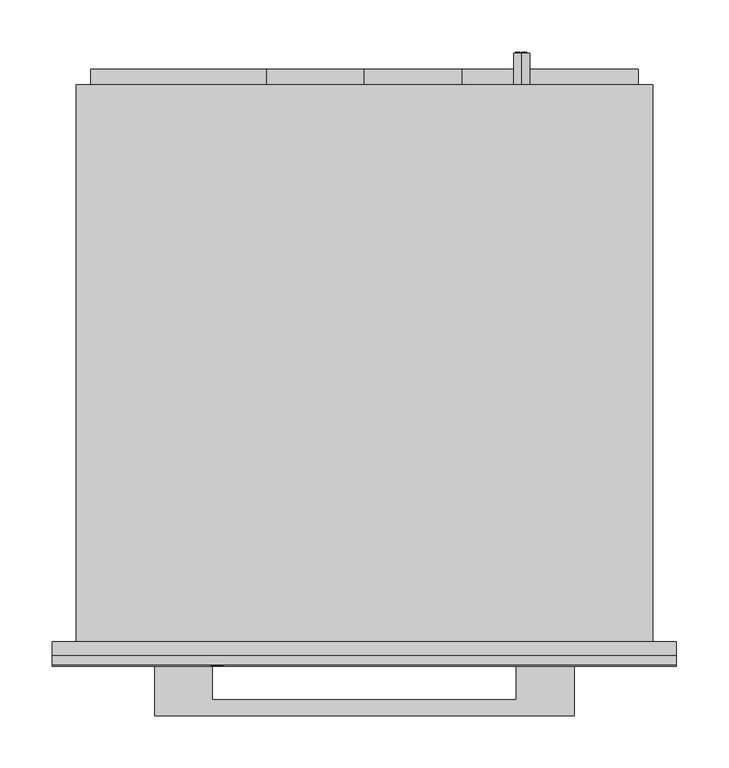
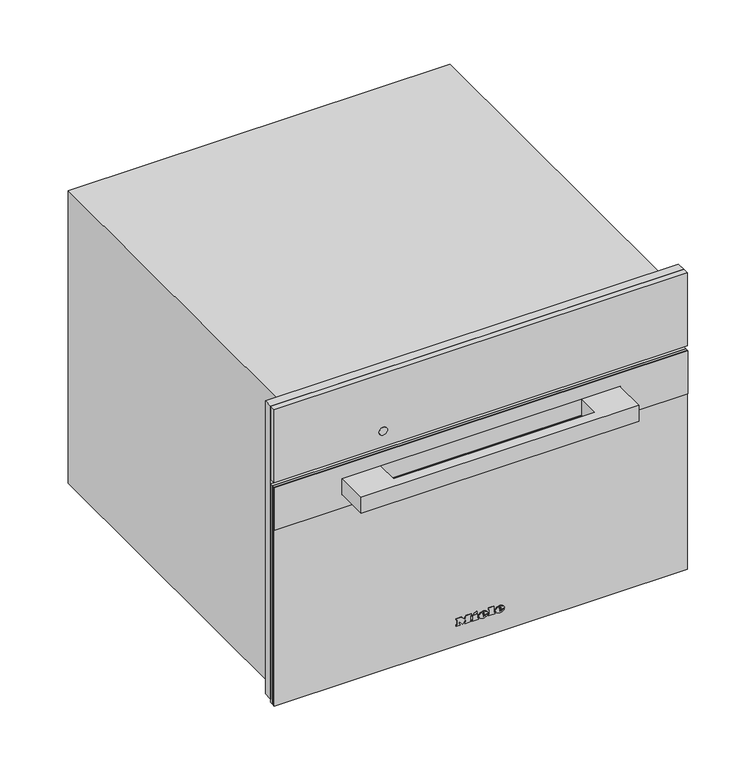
"""IFC4 building model written with IfcOpenShell, lengths in millimetres: proxy geometry, 11146160_IB_DG2840_EDST-CLST : 23284040_IB_11146160_DG2840_EDST-CLST."""

from ifc_helpers import new_model, si_unit, point, frame, frame_2d, origin, place, context, project, spatial, polyline, circle_curve, ellipse_curve, trimmed, segment, composite_curve, outline, extrude, faceted_brep, source, transform, mapped, element, save
from ifc_brep_helpers import plane_surface, cylinder_surface, revolved_surface, extruded_surface, advanced_brep


def specialty_equipment_0b99233d(model_context):
    return source(origin(), model_context, "Body", "SolidModel", [
        extrude(outline(polyline([(455.0, 297.5), (455.0, -297.5), (9.0, -297.5), (9.0, -272.5), (344.0, -272.5), (344.0, 272.5), (9.0, 272.5), (9.0, 297.5), (455.0, 297.5)])), frame((0.0, -13.0, 0.0), z_axis=(0.0, 1.0, 0.0), x_axis=(0.0, 0.0, 1.0)), (0.0, 0.0, 1.0), 13.0),
        advanced_brep(
        [(150.0, 561.0, 410.5), (150.0, 561.0, 395.5), (144.4098301, 561.0, 398.0), (148.5, 561.0, 398.0), (148.5, 561.0, 408.0), (147.4955303, 561.0, 408.0), (147.4955303, 561.0, 399.0), (144.0315043, 561.0, 399.0), (144.0315043, 561.0, 398.4582978), (155.0, 561.0, 398.0), (155.0, 561.0, 408.0), (150.0, 561.0, 408.0), (150.0, 561.0, 407.0), (154.0, 561.0, 407.0), (154.0, 561.0, 403.5), (151.0, 561.0, 403.5), (151.0, 561.0, 402.5), (154.0, 561.0, 402.5), (154.0, 561.0, 399.0), (150.0, 561.0, 399.0), (150.0, 561.0, 398.0), (150.0, 531.0, 395.5), (150.0, 531.0, 410.5), (155.0, 562.0, 408.0), (155.0, 562.0, 398.0), (150.0, 562.0, 398.0), (150.0, 562.0, 399.0), (154.0, 562.0, 399.0), (154.0, 562.0, 402.5), (151.0, 562.0, 402.5), (151.0, 562.0, 403.5), (154.0, 562.0, 403.5), (154.0, 562.0, 407.0), (150.0, 562.0, 407.0), (150.0, 562.0, 408.0), (148.5, 562.0, 398.0), (144.0315043, 562.0, 398.0), (144.0315043, 562.0, 399.0), (147.4955303, 562.0, 399.0), (147.4955303, 562.0, 408.0), (148.5, 562.0, 408.0), (144.0315043, 561.0, 398.0)],
        [
            (0, 1, circle_curve(frame((150.0, 561.0, 403.0), z_axis=(0.0, 1.0, 0.0), x_axis=(0.0, 0.0, 1.0)), 7.5)),
            (1, 2, circle_curve(frame((150.0, 561.0, 403.0), z_axis=(0.0, 1.0, 0.0), x_axis=(0.0, 0.0, 1.0)), 7.5)),
            (2, 3),
            (3, 4),
            (4, 5),
            (5, 6),
            (6, 7),
            (7, 8),
            (8, 0, circle_curve(frame((150.0, 561.0, 403.0), z_axis=(0.0, 1.0, 0.0), x_axis=(0.0, 0.0, 1.0)), 7.5)),
            (9, 10),
            (10, 11),
            (11, 12),
            (12, 13),
            (13, 14),
            (14, 15),
            (15, 16),
            (16, 17),
            (17, 18),
            (18, 19),
            (19, 20),
            (20, 9),
            (21, 22, circle_curve(frame((150.0, 531.0, 403.0), z_axis=(0.0, -1.0, 0.0), x_axis=(0.0, 0.0, 1.0)), 7.5)),
            (22, 21, circle_curve(frame((150.0, 531.0, 403.0), z_axis=(0.0, -1.0, 0.0), x_axis=(0.0, 0.0, 1.0)), 7.5)),
            (0, 22),
            (21, 1),
            (8, 2, circle_curve(frame((150.0, 561.0, 403.0), z_axis=(0.0, -1.0, 0.0), x_axis=(0.0, 0.0, 1.0)), 7.5)),
            (23, 24),
            (24, 25),
            (25, 26),
            (26, 27),
            (27, 28),
            (28, 29),
            (29, 30),
            (30, 31),
            (31, 32),
            (32, 33),
            (33, 34),
            (34, 23),
            (35, 36),
            (36, 37),
            (37, 38),
            (38, 39),
            (39, 40),
            (40, 35),
            (8, 41),
            (41, 2),
            (23, 10),
            (9, 24),
            (20, 25),
            (19, 26),
            (18, 27),
            (17, 28),
            (16, 29),
            (15, 30),
            (14, 31),
            (13, 32),
            (12, 33),
            (11, 34),
            (35, 3),
            (41, 36),
            (7, 37),
            (6, 38),
            (5, 39),
            (4, 40),
        ],
        [
            plane_surface(frame((150.0, 561.0, 410.5), z_axis=(0.0, 1.0, 0.0), x_axis=(1.0, 0.0, 0.0))),
            plane_surface(frame((150.0, 531.0, 410.5), z_axis=(0.0, -1.0, 0.0), x_axis=(-1.0, 0.0, 0.0))),
            cylinder_surface(frame((150.0, 561.0, 403.0), z_axis=(0.0, -1.0, 0.0), x_axis=(0.0, 0.0, 1.0)), 7.5),
            plane_surface(frame((155.0, 562.0, 408.0), z_axis=(0.0, 1.0, 0.0), x_axis=(0.0, 0.0, -1.0))),
            plane_surface(frame((155.0, 561.0, 408.0), z_axis=(0.0, -1.0, 0.0), x_axis=(0.0, 0.0, 1.0))),
            plane_surface(frame((155.0, 562.0, 408.0), z_axis=(1.0, 0.0, 0.0), x_axis=(0.0, -1.0, 0.0))),
            plane_surface(frame((155.0, 562.0, 398.0), z_axis=(0.0, 0.0, -1.0), x_axis=(0.0, -1.0, 0.0))),
            plane_surface(frame((150.0, 562.0, 398.0), z_axis=(-1.0, 0.0, 0.0), x_axis=(0.0, -1.0, 0.0))),
            plane_surface(frame((150.0, 562.0, 399.0), z_axis=(0.0, 0.0, 1.0), x_axis=(0.0, -1.0, 0.0))),
            plane_surface(frame((154.0, 562.0, 399.0), z_axis=(-1.0, 0.0, 0.0), x_axis=(0.0, -1.0, 0.0))),
            plane_surface(frame((154.0, 562.0, 402.5), z_axis=(0.0, 0.0, -1.0), x_axis=(0.0, -1.0, 0.0))),
            plane_surface(frame((151.0, 562.0, 402.5), z_axis=(-1.0, 0.0, 0.0), x_axis=(0.0, -1.0, 0.0))),
            plane_surface(frame((151.0, 562.0, 403.5), z_axis=(0.0, 0.0, 1.0), x_axis=(0.0, -1.0, 0.0))),
            plane_surface(frame((154.0, 562.0, 403.5), z_axis=(-1.0, 0.0, 0.0), x_axis=(0.0, -1.0, 0.0))),
            plane_surface(frame((154.0, 562.0, 407.0), z_axis=(0.0, 0.0, -1.0), x_axis=(0.0, -1.0, 0.0))),
            plane_surface(frame((150.0, 562.0, 407.0), z_axis=(-1.0, 0.0, 0.0), x_axis=(0.0, -1.0, 0.0))),
            plane_surface(frame((150.0, 562.0, 408.0), z_axis=(0.0, 0.0, 1.0), x_axis=(0.0, -1.0, 0.0))),
            plane_surface(frame((148.5, 562.0, 398.0), z_axis=(0.0, 0.0, -1.0), x_axis=(0.0, -1.0, 0.0))),
            plane_surface(frame((144.0315043, 562.0, 398.0), z_axis=(-1.0, 0.0, 0.0), x_axis=(0.0, -1.0, 0.0))),
            plane_surface(frame((144.0315043, 562.0, 399.0), z_axis=(0.0, 0.0, 1.0), x_axis=(0.0, -1.0, 0.0))),
            plane_surface(frame((147.4955303, 562.0, 399.0), z_axis=(-1.0, 0.0, 0.0), x_axis=(0.0, -1.0, 0.0))),
            plane_surface(frame((147.4955303, 562.0, 408.0), z_axis=(0.0, 0.0, 1.0), x_axis=(0.0, -1.0, 0.0))),
            plane_surface(frame((148.5, 562.0, 408.0), z_axis=(1.0, 0.0, 0.0), x_axis=(0.0, -1.0, 0.0))),
        ],
        [
            (0, [[1, 2, 3, 4, 5, 6, 7, 8, 9], [10, 11, 12, 13, 14, 15, 16, 17, 18, 19, 20, 21]]),
            (1, [[22, 23]]),
            (2, [[-1, 24, -22, 25]]),
            (2, [[-23, -24, -9, 26, -2, -25]]),
            (3, [[27, 28, 29, 30, 31, 32, 33, 34, 35, 36, 37, 38]]),
            (3, [[39, 40, 41, 42, 43, 44]]),
            (4, [[45, 46, -26]]),
            (5, [[-27, 47, -10, 48]]),
            (6, [[-28, -48, -21, 49]]),
            (7, [[-29, -49, -20, 50]]),
            (8, [[-30, -50, -19, 51]]),
            (9, [[-31, -51, -18, 52]]),
            (10, [[-32, -52, -17, 53]]),
            (11, [[-33, -53, -16, 54]]),
            (12, [[-34, -54, -15, 55]]),
            (13, [[-35, -55, -14, 56]]),
            (14, [[-36, -56, -13, 57]]),
            (15, [[-37, -57, -12, 58]]),
            (16, [[-38, -58, -11, -47]]),
            (17, [[-39, 59, -3, -46, 60]]),
            (18, [[-40, -60, -45, -8, 61]]),
            (19, [[-41, -61, -7, 62]]),
            (20, [[-42, -62, -6, 63]]),
            (21, [[-43, -63, -5, 64]]),
            (22, [[-44, -64, -4, -59]]),
        ],
    ),
        extrude(outline(polyline([(299.0, -93.0), (258.0, -93.0), (258.0, -261.0), (111.0, -261.0), (111.0, -93.0), (70.0, -93.0), (70.0, 0.0), (70.0, 93.0), (111.0, 93.0), (111.0, 261.0), (258.0, 261.0), (258.0, 93.0), (299.0, 93.0), (299.0, 0.0), (299.0, -93.0)])), frame((0.0, 531.0, 0.0), z_axis=(0.0, 1.0, 0.0), x_axis=(0.0, 0.0, 1.0)), (0.0, 0.0, 1.0), 15.0),
        faceted_brep([(275.0, 531.0, 445.0), (275.0, 531.0, 0.0), (-275.0, 531.0, 0.0), (-275.0, 531.0, 445.0), (275.0, 0.0, 445.0), (-275.0, 0.0, 445.0), (-275.0, 0.0, 0.0), (275.0, 0.0, 0.0), (-272.5, 0.0, 344.0), (272.5, 0.0, 344.0), (272.5, 0.0, 8.0), (-272.5, 0.0, 8.0), (272.5, 34.0, 344.0), (-272.5, 34.0, 344.0), (-272.5, 34.0, 8.0), (272.5, 34.0, 8.0), (161.0, 34.0, 286.0), (161.0, 34.0, 58.0), (-220.0, 34.0, 58.0), (-220.0, 34.0, 286.0), (161.0, 444.0, 286.0), (-220.0, 444.0, 286.0), (-220.0, 444.0, 58.0), (161.0, 444.0, 58.0)], [[[0, 1, 2, 3]], [[4, 5, 6, 7], [8, 9, 10, 11]], [[0, 3, 5, 4]], [[3, 2, 6, 5]], [[2, 1, 7, 6]], [[1, 0, 4, 7]], [[12, 13, 14, 15], [16, 17, 18, 19]], [[13, 12, 9, 8]], [[14, 13, 8, 11]], [[15, 14, 11, 10]], [[12, 15, 10, 9]], [[20, 21, 22, 23]], [[20, 23, 17, 16]], [[23, 22, 18, 17]], [[22, 21, 19, 18]], [[21, 20, 16, 19]]]),
        advanced_brep(
        [(26.2998, -23.0, 36.7018), (26.2998, -23.0, 37.8532), (33.9264, -23.0, 37.8532), (20.6568, -23.0, 37.8532), (23.7918, -23.0, 34.0), (33.7326, -23.0, 36.7018), (30.2898, -23.0, 36.7018), (27.5766, -23.0, 35.425), (26.2998, -23.0, 39.3124), (26.2998, -23.0, 40.555), (28.2492, -23.0, 40.555), (28.2492, -23.0, 39.3124), (26.2998, -22.0, 36.7018), (27.5766, -22.0, 35.425), (30.2898, -22.0, 36.7018), (33.7326, -22.0, 36.7018), (23.7918, -22.0, 34.0), (20.6568, -22.0, 37.8532), (33.9264, -22.0, 37.8532), (26.2998, -22.0, 37.8532), (26.2998, -22.0, 39.3124), (28.2492, -22.0, 39.3124), (28.2492, -22.0, 40.555), (26.2998, -22.0, 40.555)],
        [
            (0, 1),
            (1, 2),
            (2, 3, ellipse_curve(frame((27.2916, -23.0, 37.8532), z_axis=(0.0, -1.0, 0.0), x_axis=(-1.0, 0.0, 0.0)), 6.6348, 5.4834)),
            (3, 4, circle_curve(frame((25.0686622, -23.0, 38.2408), z_axis=(0.0, -1.0, 0.0), x_axis=(0.0, 0.0, -1.0)), 4.4288556)),
            (4, 5, circle_curve(frame((27.1587808, -23.0, 41.2504), z_axis=(0.0, -1.0, 0.0), x_axis=(0.0, 0.0, -1.0)), 7.9940516)),
            (5, 6),
            (6, 7, circle_curve(frame((28.1338588, -23.0, 37.762), z_axis=(0.0, 1.0, 0.0), x_axis=(0.0, 0.0, -1.0)), 2.4025208)),
            (7, 0, circle_curve(frame((27.5766, -23.0, 36.7018), z_axis=(0.0, 1.0, 0.0), x_axis=(0.0, 0.0, -1.0)), 1.2768)),
            (8, 9),
            (9, 10, circle_curve(frame((27.2745, -23.0, 40.555), z_axis=(0.0, 1.0, 0.0), x_axis=(0.0, 0.0, -1.0)), 0.9747)),
            (10, 11),
            (11, 8),
            (12, 13, circle_curve(frame((27.5766, -22.0, 36.7018), z_axis=(0.0, -1.0, 0.0), x_axis=(0.0, 0.0, -1.0)), 1.2768)),
            (13, 14, circle_curve(frame((28.1338588, -22.0, 37.762), z_axis=(0.0, -1.0, 0.0), x_axis=(0.0, 0.0, -1.0)), 2.4025208)),
            (14, 15),
            (15, 16, circle_curve(frame((27.1587808, -22.0, 41.2504), z_axis=(0.0, 1.0, 0.0), x_axis=(0.0, 0.0, -1.0)), 7.9940516)),
            (16, 17, circle_curve(frame((25.0686622, -22.0, 38.2408), z_axis=(0.0, 1.0, 0.0), x_axis=(0.0, 0.0, -1.0)), 4.4288556)),
            (17, 18, ellipse_curve(frame((27.2916, -22.0, 37.8532), z_axis=(0.0, 1.0, 0.0), x_axis=(-1.0, 0.0, 0.0)), 6.6348, 5.4834)),
            (18, 19),
            (19, 12),
            (20, 21),
            (21, 22),
            (22, 23, circle_curve(frame((27.2745, -22.0, 40.555), z_axis=(0.0, -1.0, 0.0), x_axis=(0.0, 0.0, -1.0)), 0.9747)),
            (23, 20),
            (0, 12),
            (19, 1),
            (18, 2),
            (5, 15),
            (14, 6),
            (17, 3),
            (13, 7),
            (16, 4),
            (8, 20),
            (23, 9),
            (22, 10),
            (21, 11),
        ],
        [
            plane_surface(frame((26.2998, -23.0, 37.8532), z_axis=(0.0, -1.0, 0.0), x_axis=(0.0, 0.0, 1.0))),
            plane_surface(frame((26.2998, -22.0, 37.8532), z_axis=(0.0, 1.0, 0.0), x_axis=(0.0, 0.0, -1.0))),
            plane_surface(frame((26.2998, -23.0, 36.7018), z_axis=(1.0, 0.0, 0.0), x_axis=(0.0, 1.0, 0.0))),
            plane_surface(frame((26.2998, -23.0, 37.8532), z_axis=(0.0, 0.0, -1.0), x_axis=(0.0, 1.0, 0.0))),
            plane_surface(frame((33.7326, -23.0, 36.7018), z_axis=(0.0, 0.0, 1.0), x_axis=(0.0, 1.0, 0.0))),
            extruded_surface(trimmed(ellipse_curve(frame((27.2916, -21.0, 37.8532), z_axis=(0.0, -1.0, 0.0), x_axis=(-1.0, 0.0, 0.0)), 6.6348, 5.4834), [point((33.9264, -21.0, 37.8532))], [point((20.6568, -21.0, 37.8532))], True, "CARTESIAN"), (0.0, -1.0, 0.0), 1.0),
            revolved_surface(polyline([(28.1338588, -22.0, 35.3594792), (28.1338588, -23.0, 35.3594792)]), (28.1338588, -22.0, 37.762), (0.0, 1.0, 0.0)),
            revolved_surface(polyline([(27.5766, -22.0, 35.425), (27.5766, -23.0, 35.425)]), (27.5766, -22.0, 36.7018), (0.0, 1.0, 0.0)),
            cylinder_surface(frame((25.0686622, -22.0, 38.2408), z_axis=(0.0, -1.0, 0.0), x_axis=(0.0, 0.0, -1.0)), 4.4288556),
            cylinder_surface(frame((27.1587808, -22.0, 41.2504), z_axis=(0.0, -1.0, 0.0), x_axis=(0.0, 0.0, -1.0)), 7.9940516),
            plane_surface(frame((26.2998, -23.0, 39.3124), z_axis=(1.0, 0.0, 0.0), x_axis=(0.0, 1.0, 0.0))),
            revolved_surface(polyline([(27.2745, -22.0, 39.5803), (27.2745, -23.0, 39.5803)]), (27.2745, -22.0, 40.555), (0.0, 1.0, 0.0)),
            plane_surface(frame((28.2492, -23.0, 40.555), z_axis=(-1.0, 0.0, 0.0), x_axis=(0.0, 1.0, 0.0))),
            plane_surface(frame((28.2492, -23.0, 39.3124), z_axis=(0.0, 0.0, 1.0), x_axis=(0.0, 1.0, 0.0))),
        ],
        [
            (0, [[1, 2, 3, 4, 5, 6, 7, 8], [9, 10, 11, 12]]),
            (1, [[13, 14, 15, 16, 17, 18, 19, 20], [21, 22, 23, 24]]),
            (2, [[-1, 25, -20, 26]]),
            (3, [[-2, -26, -19, 27]]),
            (4, [[-6, 28, -15, 29]]),
            (5, [[-3, -27, -18, 30]]),
            (6, [[-7, -29, -14, 31]]),
            (7, [[-8, -31, -13, -25]]),
            (8, [[-4, -30, -17, 32]]),
            (9, [[-5, -32, -16, -28]]),
            (10, [[-9, 33, -24, 34]]),
            (11, [[-10, -34, -23, 35]]),
            (12, [[-11, -35, -22, 36]]),
            (13, [[-12, -36, -21, -33]]),
        ],
    ),
        advanced_brep(
        [(2.508, -23.0, 36.7018), (2.508, -23.0, 37.8532), (10.1346, -23.0, 37.8532), (-3.135, -23.0, 37.8532), (0.0, -23.0, 34.0), (9.9408, -23.0, 36.7018), (6.498, -23.0, 36.7018), (3.7848, -23.0, 35.425), (2.508, -23.0, 39.3124), (2.508, -23.0, 40.555), (4.4574, -23.0, 40.555), (4.4574, -23.0, 39.3124), (2.508, -22.0, 36.7018), (3.7848, -22.0, 35.425), (6.498, -22.0, 36.7018), (9.9408, -22.0, 36.7018), (0.0, -22.0, 34.0), (-3.135, -22.0, 37.8532), (10.1346, -22.0, 37.8532), (2.508, -22.0, 37.8532), (2.508, -22.0, 39.3124), (4.4574, -22.0, 39.3124), (4.4574, -22.0, 40.555), (2.508, -22.0, 40.555)],
        [
            (0, 1),
            (1, 2),
            (2, 3, ellipse_curve(frame((3.4998, -23.0, 37.8532), z_axis=(0.0, -1.0, 0.0), x_axis=(-1.0, 0.0, 0.0)), 6.6348, 5.4834)),
            (3, 4, circle_curve(frame((1.2768622, -23.0, 38.2408), z_axis=(0.0, -1.0, 0.0), x_axis=(0.0, 0.0, -1.0)), 4.4288556)),
            (4, 5, circle_curve(frame((3.3669808, -23.0, 41.2504), z_axis=(0.0, -1.0, 0.0), x_axis=(0.0, 0.0, -1.0)), 7.9940516)),
            (5, 6),
            (6, 7, circle_curve(frame((4.3420588, -23.0, 37.762), z_axis=(0.0, 1.0, 0.0), x_axis=(0.0, 0.0, -1.0)), 2.4025208)),
            (7, 0, circle_curve(frame((3.7848, -23.0, 36.7018), z_axis=(0.0, 1.0, 0.0), x_axis=(0.0, 0.0, -1.0)), 1.2768)),
            (8, 9),
            (9, 10, circle_curve(frame((3.4827, -23.0, 40.555), z_axis=(0.0, 1.0, 0.0), x_axis=(0.0, 0.0, -1.0)), 0.9747)),
            (10, 11),
            (11, 8),
            (12, 13, circle_curve(frame((3.7848, -22.0, 36.7018), z_axis=(0.0, -1.0, 0.0), x_axis=(0.0, 0.0, -1.0)), 1.2768)),
            (13, 14, circle_curve(frame((4.3420588, -22.0, 37.762), z_axis=(0.0, -1.0, 0.0), x_axis=(0.0, 0.0, -1.0)), 2.4025208)),
            (14, 15),
            (15, 16, circle_curve(frame((3.3669808, -22.0, 41.2504), z_axis=(0.0, 1.0, 0.0), x_axis=(0.0, 0.0, -1.0)), 7.9940516)),
            (16, 17, circle_curve(frame((1.2768622, -22.0, 38.2408), z_axis=(0.0, 1.0, 0.0), x_axis=(0.0, 0.0, -1.0)), 4.4288556)),
            (17, 18, ellipse_curve(frame((3.4998, -22.0, 37.8532), z_axis=(0.0, 1.0, 0.0), x_axis=(-1.0, 0.0, 0.0)), 6.6348, 5.4834)),
            (18, 19),
            (19, 12),
            (20, 21),
            (21, 22),
            (22, 23, circle_curve(frame((3.4827, -22.0, 40.555), z_axis=(0.0, -1.0, 0.0), x_axis=(0.0, 0.0, -1.0)), 0.9747)),
            (23, 20),
            (0, 12),
            (19, 1),
            (18, 2),
            (5, 15),
            (14, 6),
            (17, 3),
            (13, 7),
            (16, 4),
            (8, 20),
            (23, 9),
            (22, 10),
            (21, 11),
        ],
        [
            plane_surface(frame((2.508, -23.0, 37.8532), z_axis=(0.0, -1.0, 0.0), x_axis=(0.0, 0.0, 1.0))),
            plane_surface(frame((2.508, -22.0, 37.8532), z_axis=(0.0, 1.0, 0.0), x_axis=(0.0, 0.0, -1.0))),
            plane_surface(frame((2.508, -23.0, 36.7018), z_axis=(1.0, 0.0, 0.0), x_axis=(0.0, 1.0, 0.0))),
            plane_surface(frame((2.508, -23.0, 37.8532), z_axis=(0.0, 0.0, -1.0), x_axis=(0.0, 1.0, 0.0))),
            plane_surface(frame((9.9408, -23.0, 36.7018), z_axis=(0.0, 0.0, 1.0), x_axis=(0.0, 1.0, 0.0))),
            extruded_surface(trimmed(ellipse_curve(frame((3.4998, -21.0, 37.8532), z_axis=(0.0, -1.0, 0.0), x_axis=(-1.0, 0.0, 0.0)), 6.6348, 5.4834), [point((10.1346, -21.0, 37.8532))], [point((-3.135, -21.0, 37.8532))], True, "CARTESIAN"), (0.0, -1.0, 0.0), 1.0),
            revolved_surface(polyline([(4.3420588, -22.0, 35.3594792), (4.3420588, -23.0, 35.3594792)]), (4.3420588, -22.0, 37.762), (0.0, 1.0, 0.0)),
            revolved_surface(polyline([(3.7848, -22.0, 35.425), (3.7848, -23.0, 35.425)]), (3.7848, -22.0, 36.7018), (0.0, 1.0, 0.0)),
            cylinder_surface(frame((1.2768622, -22.0, 38.2408), z_axis=(0.0, -1.0, 0.0), x_axis=(0.0, 0.0, -1.0)), 4.4288556),
            cylinder_surface(frame((3.3669808, -22.0, 41.2504), z_axis=(0.0, -1.0, 0.0), x_axis=(0.0, 0.0, -1.0)), 7.9940516),
            plane_surface(frame((2.508, -23.0, 39.3124), z_axis=(1.0, 0.0, 0.0), x_axis=(0.0, 1.0, 0.0))),
            revolved_surface(polyline([(3.4827, -22.0, 39.5803), (3.4827, -23.0, 39.5803)]), (3.4827, -22.0, 40.555), (0.0, 1.0, 0.0)),
            plane_surface(frame((4.4574, -23.0, 40.555), z_axis=(-1.0, 0.0, 0.0), x_axis=(0.0, 1.0, 0.0))),
            plane_surface(frame((4.4574, -23.0, 39.3124), z_axis=(0.0, 0.0, 1.0), x_axis=(0.0, 1.0, 0.0))),
        ],
        [
            (0, [[1, 2, 3, 4, 5, 6, 7, 8], [9, 10, 11, 12]]),
            (1, [[13, 14, 15, 16, 17, 18, 19, 20], [21, 22, 23, 24]]),
            (2, [[-1, 25, -20, 26]]),
            (3, [[-2, -26, -19, 27]]),
            (4, [[-6, 28, -15, 29]]),
            (5, [[-3, -27, -18, 30]]),
            (6, [[-7, -29, -14, 31]]),
            (7, [[-8, -31, -13, -25]]),
            (8, [[-4, -30, -17, 32]]),
            (9, [[-5, -32, -16, -28]]),
            (10, [[-9, 33, -24, 34]]),
            (11, [[-10, -34, -23, 35]]),
            (12, [[-11, -35, -22, 36]]),
            (13, [[-12, -36, -21, -33]]),
        ],
    ),
        extrude(outline(polyline([(44.7274, -9.9522), (42.8806, -9.0858), (44.6818, -5.2212), (46.5286, -6.0762), (44.7274, -9.9522)])), frame((0.0, -23.0, 0.0), z_axis=(0.0, 1.0, 0.0), x_axis=(0.0, 0.0, 1.0)), (0.0, 0.0, 1.0), 1.0),
        extrude(outline(polyline([(42.6298, -12.768), (40.5892, -12.768), (40.5892, -11.4114), (35.9152, -11.4114), (35.9152, -12.768), (34.0, -12.768), (34.0, -3.7734), (35.9152, -3.7734), (35.9152, -5.0958), (42.6298, -5.0958), (42.6298, -12.768)])), frame((0.0, -23.0, 0.0), z_axis=(0.0, 1.0, 0.0), x_axis=(0.0, 0.0, 1.0)), (0.0, 0.0, 1.0), 1.0),
        extrude(outline(polyline([(43.5418, 10.773), (43.5418, 12.141), (35.9152, 12.141), (35.9152, 10.773), (34.0, 10.773), (34.0, 20.0184), (35.9152, 20.0184), (35.9152, 18.6162), (45.4, 18.6162), (45.4, 10.773), (43.5418, 10.773)])), frame((0.0, -23.0, 0.0), z_axis=(0.0, 1.0, 0.0), x_axis=(0.0, 0.0, 1.0)), (0.0, 0.0, 1.0), 1.0),
        extrude(outline(polyline([(43.5418, -35.4882), (43.5418, -34.1088), (35.9152, -34.1088), (35.9152, -35.4882), (34.0, -35.4882), (34.0, -30.4722), (35.9152, -30.4722), (35.9152, -31.8402), (40.7429247, -31.8402), (34.0, -26.7444), (40.9402223, -21.6258), (35.9152, -21.6258), (35.9152, -23.028), (34.0, -23.028), (34.0, -13.9308), (35.9152, -13.9308), (35.9152, -15.3786), (43.5418, -15.3786), (43.5418, -13.9308), (45.4, -13.9308), (45.4, -20.8734), (41.125, -24.2022), (45.4, -27.5424), (45.4, -35.4882), (43.5418, -35.4882)])), frame((0.0, -23.0, 0.0), z_axis=(0.0, 1.0, 0.0), x_axis=(0.0, 0.0, 1.0)), (0.0, 0.0, 1.0), 1.0),
        extrude(outline(polyline([(297.5, -22.0), (-297.5, -22.0), (-297.5, -13.0), (297.5, -13.0), (297.5, -22.0)])), frame((0.0, 0.0, 344.0), z_axis=(0.0, 0.0, 1.0), x_axis=(1.0, 0.0, 0.0)), (0.0, 0.0, 1.0), 111.0),
        extrude(outline(composite_curve([segment(trimmed(circle_curve(frame_2d((367.7, -140.5745637)), 6.0), [point((367.7, -146.5745637))], [point((367.7, -134.5745637))], False, "CARTESIAN"), True, "CONTINUOUS"), segment(trimmed(circle_curve(frame_2d((367.7, -140.5745637)), 6.0), [point((367.7, -134.5745637))], [point((367.7, -146.5745637))], False, "CARTESIAN"), True, "CONTINUOUS")], self_intersect=False)), frame((0.0, -22.5, 0.0), z_axis=(0.0, 1.0, 0.0), x_axis=(0.0, 0.0, 1.0)), (0.0, 0.0, 1.0), 1.0),
        extrude(outline(polyline([(297.5, -18.0), (-297.5, -18.0), (-297.5, -13.0), (297.5, -13.0), (297.5, -18.0)])), frame((0.0, 0.0, 4.0), z_axis=(0.0, 0.0, 1.0), x_axis=(1.0, 0.0, 0.0)), (0.0, 0.0, 1.0), 333.0),
        extrude(outline(polyline([(-297.5, -18.0), (297.5, -18.0), (297.5, -22.0), (-297.5, -22.0), (-297.5, -18.0)])), frame((0.0, 0.0, 4.0), z_axis=(0.0, 0.0, 1.0), x_axis=(1.0, 0.0, 0.0)), (0.0, 0.0, 1.0), 333.0),
        extrude(outline(polyline([(-200.0, -70.3), (-200.0, -22.0), (-145.0, -22.0), (-145.0, -55.3), (145.0, -55.3), (145.0, -22.0), (200.0, -22.0), (200.0, -70.3), (-200.0, -70.3)])), frame((0.0, 0.0, 292.5), z_axis=(0.0, 0.0, 1.0), x_axis=(1.0, 0.0, 0.0)), (0.0, 0.0, 1.0), 24.0),
        extrude(outline(polyline([(337.0, 297.5), (337.0, -297.5), (272.0, -297.5), (272.0, 297.5), (337.0, 297.5)]), holes=[polyline([(317.0, -200.5), (317.0, 200.5), (292.0, 200.5), (292.0, -200.5), (317.0, -200.5)])]), frame((0.0, -23.3, 0.0), z_axis=(0.0, 1.0, 0.0), x_axis=(0.0, 0.0, 1.0)), (0.0, 0.0, 1.0), 1.3),
    ])


if __name__ == "__main__":
    model = new_model("IFC4")
    model_context = context("Model", 3, world=origin())
    ifc_project = project(units=[si_unit("LENGTHUNIT", "METRE", prefix="MILLI")], contexts=[model_context])
    site = spatial("IfcSite", under=ifc_project)
    building = spatial("IfcBuilding", under=site)
    placement = place(None, origin())
    specialty_equipment_shape = specialty_equipment_0b99233d(model_context)
    element("IfcBuildingElementProxy", 1, Name="11146160_IB_DG2840_EDST-CLST : 23284040_IB_11146160_DG2840_EDST-CLST", ObjectType="11146160_IB_DG2840_EDST-CLST : 23284040_IB_11146160_DG2840_EDST-CLST", at=placement, inside=building, context=model_context, shape_type="MappedRepresentation", body=[
        mapped(specialty_equipment_shape, transform((0.0, 0.0, 0.0), x_axis=(1.0, 0.0, 0.0), y_axis=(0.0, 1.0, 0.0), z_axis=(0.0, 0.0, 1.0))),
    ])
    save(model, "model.ifc")
